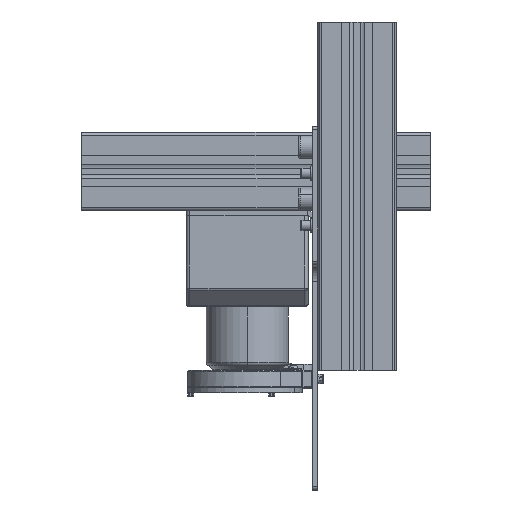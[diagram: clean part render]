
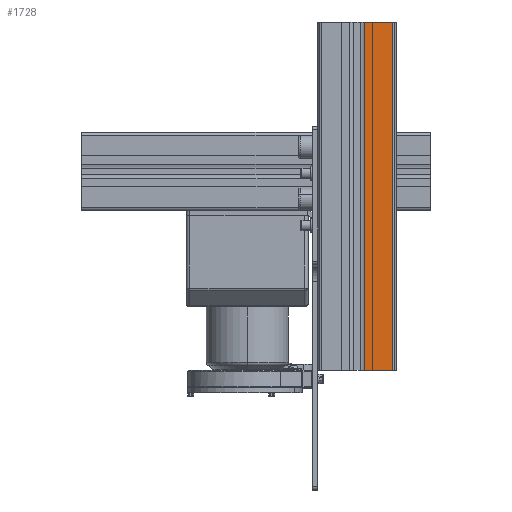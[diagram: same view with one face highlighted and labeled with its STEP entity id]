
A CAD part, front view. The second image highlights one B-rep face of the part: STEP entity #1728.
In plain terms, the highlighted planar face has unit normal (0, -1, 0).
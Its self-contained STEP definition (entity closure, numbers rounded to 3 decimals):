
#374 = CARTESIAN_POINT ( 'NONE',  ( 4.2, -22.5, 200. ) ) ;
#498 = DIRECTION ( 'NONE',  ( 1., 0., 0. ) ) ;
#842 = CARTESIAN_POINT ( 'NONE',  ( 20.5, -22.5, 0. ) ) ;
#1381 = EDGE_CURVE ( 'NONE', #24049, #25950, #10852, .T. ) ;
#1548 = CARTESIAN_POINT ( 'NONE',  ( 20.5, -22.5, 200. ) ) ;
#1728 = ADVANCED_FACE ( 'NONE', ( #8606 ), #17484, .F. ) ;
#2960 = DIRECTION ( 'NONE',  ( 1., 0., 0. ) ) ;
#3376 = DIRECTION ( 'NONE',  ( 0., 0., -1. ) ) ;
#3402 = VECTOR ( 'NONE', #13433, 1000. ) ;
#4012 = CARTESIAN_POINT ( 'NONE',  ( 20.5, -22.5, 0. ) ) ;
#4225 = CARTESIAN_POINT ( 'NONE',  ( 20.5, -22.5, 200. ) ) ;
#5159 = VECTOR ( 'NONE', #3376, 1000. ) ;
#6107 = ORIENTED_EDGE ( 'NONE', *, *, #11212, .F. ) ;
#8168 = ORIENTED_EDGE ( 'NONE', *, *, #16692, .T. ) ;
#8507 = ORIENTED_EDGE ( 'NONE', *, *, #1381, .T. ) ;
#8605 = CARTESIAN_POINT ( 'NONE',  ( 4.2, -22.5, 0. ) ) ;
#8606 = FACE_OUTER_BOUND ( 'NONE', #29552, .T. ) ;
#10813 = VECTOR ( 'NONE', #498, 1000. ) ;
#10852 = LINE ( 'NONE', #4012, #10813 ) ;
#11212 = EDGE_CURVE ( 'NONE', #21467, #25950, #21148, .T. ) ;
#13433 = DIRECTION ( 'NONE',  ( 0., 0., -1. ) ) ;
#15513 = VERTEX_POINT ( 'NONE', #16707 ) ;
#15820 = LINE ( 'NONE', #16837, #27600 ) ;
#16692 = EDGE_CURVE ( 'NONE', #15513, #24049, #17548, .T. ) ;
#16707 = CARTESIAN_POINT ( 'NONE',  ( 4.2, -22.5, 200. ) ) ;
#16837 = CARTESIAN_POINT ( 'NONE',  ( 20.5, -22.5, 200. ) ) ;
#17245 = DIRECTION ( 'NONE',  ( 0., 1., 0. ) ) ;
#17484 = PLANE ( 'NONE',  #20202 ) ;
#17548 = LINE ( 'NONE', #374, #5159 ) ;
#20202 = AXIS2_PLACEMENT_3D ( 'NONE', #1548, #17245, #20608 ) ;
#20608 = DIRECTION ( 'NONE',  ( -1., 0., 0. ) ) ;
#21148 = LINE ( 'NONE', #4225, #3402 ) ;
#21467 = VERTEX_POINT ( 'NONE', #27419 ) ;
#23789 = EDGE_CURVE ( 'NONE', #15513, #21467, #15820, .T. ) ;
#24049 = VERTEX_POINT ( 'NONE', #8605 ) ;
#25950 = VERTEX_POINT ( 'NONE', #842 ) ;
#27419 = CARTESIAN_POINT ( 'NONE',  ( 20.5, -22.5, 200. ) ) ;
#27600 = VECTOR ( 'NONE', #2960, 1000. ) ;
#27928 = ORIENTED_EDGE ( 'NONE', *, *, #23789, .F. ) ;
#29552 = EDGE_LOOP ( 'NONE', ( #8507, #6107, #27928, #8168 ) ) ;
